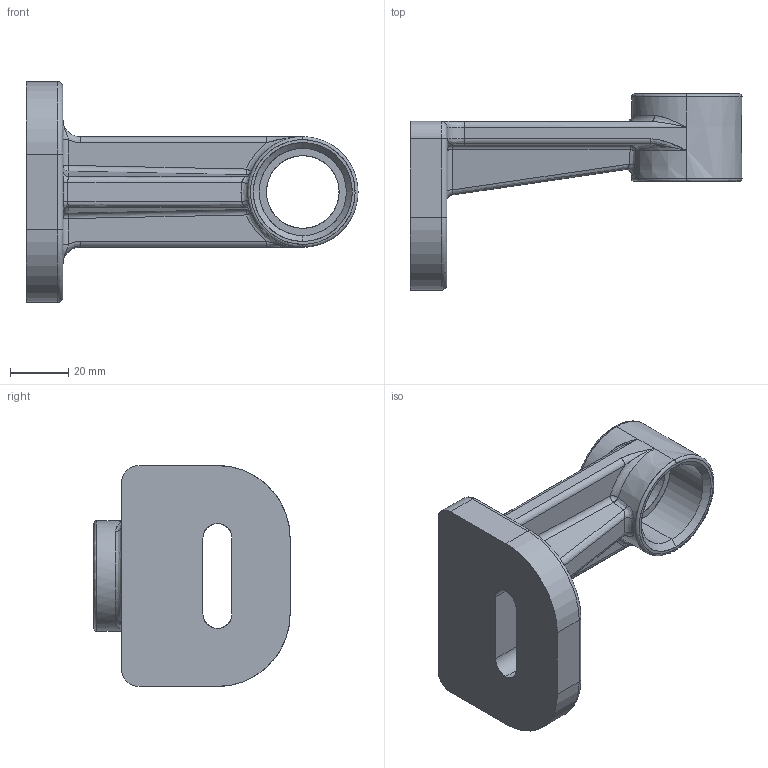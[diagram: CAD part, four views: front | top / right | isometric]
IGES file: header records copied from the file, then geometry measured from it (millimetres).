
Start section: SolidWorks IGES file using analytic representation for surfaces
Global section: file name: C:\Documents and Settings\Pc\Escritorio\Modelos 3D\Capítulo 1 (Estático)\PRACTICAS\OTROS\pieza radiada.IGS; native system: SolidWorks 2010; preprocessor: SolidWorks 2010; author: Pc; date: 100623.112239; units: millimetre
Bounding box: 114.25 x 67.53 x 76 mm (x, y, z)
Surface area: 24994.5 mm2 (no closed solid volume)
Topology: 0 solids, 0 shells, 97 faces, 1148 edges, 1142 vertices
Faces by surface type: bspline 53, revolution 44
